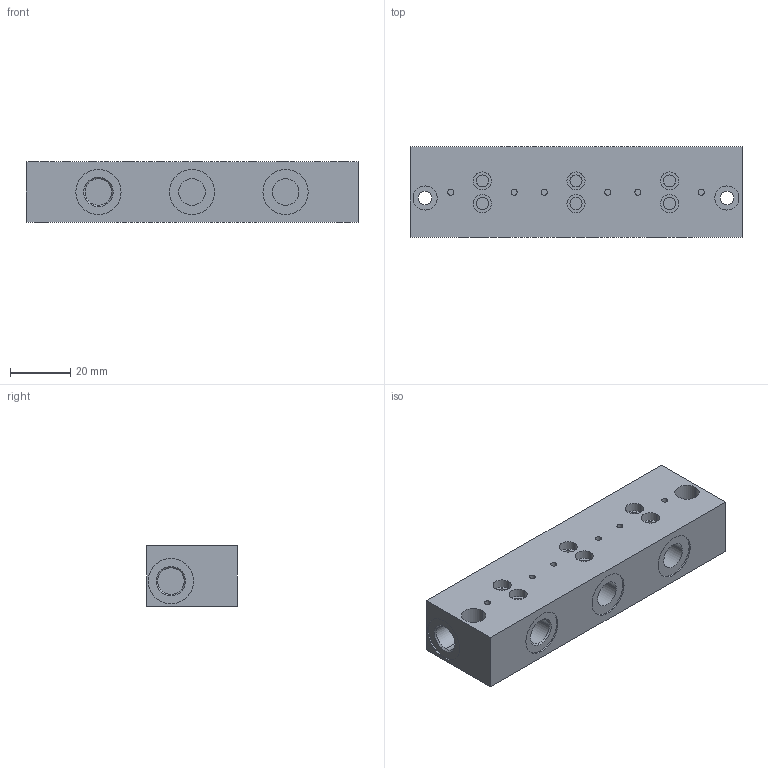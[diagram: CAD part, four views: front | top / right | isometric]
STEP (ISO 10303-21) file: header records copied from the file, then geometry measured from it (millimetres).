
FILE_DESCRIPTION((''),'2;1');
FILE_NAME('1825503238','2015-04-23T',('vol1hc'),(''),'PRO/ENGINEER BY PARAMETRIC TECHNOLOGY CORPORATION, 2011490','PRO/ENGINEER BY PARAMETRIC TECHNOLOGY CORPORATION, 2011490','');
FILE_SCHEMA(('AUTOMOTIVE_DESIGN_CC2 { 1 2 10303 214 -1 1 5 2 }'));
Length unit declared in the file: millimetre
Products named in the file (1): 1825503238
Bounding box: 110 x 30 x 20 mm (x, y, z)
Volume: 61182.9 mm3; surface area: 14984.5 mm2
Topology: 1 solids, 1 shells, 106 faces, 216 edges, 142 vertices
Faces by surface type: cylinder 64, plane 36, cone 6
Entity records: 2863 total; most frequent: DIRECTION 562, CARTESIAN_POINT 464, ORIENTED_EDGE 432, AXIS2_PLACEMENT_3D 240, EDGE_CURVE 216, VERTEX_POINT 142, EDGE_LOOP 140, CIRCLE 134
